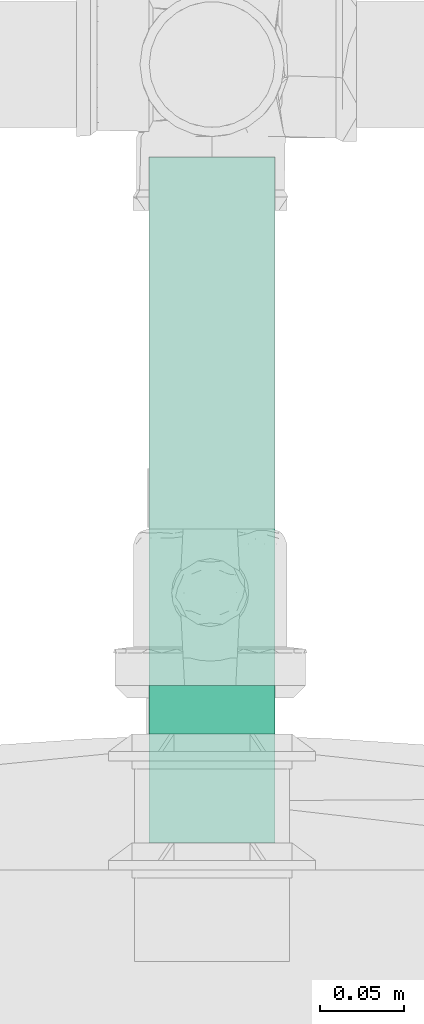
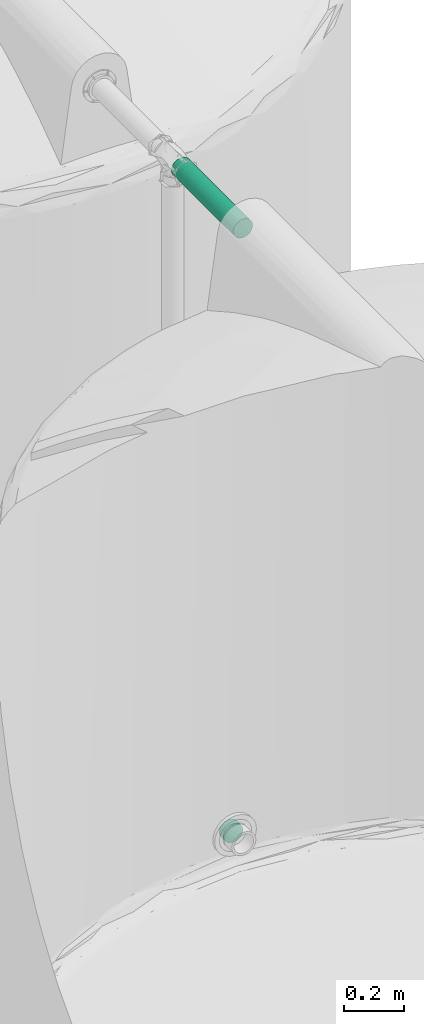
# One storey, part 57 of 166: 2 flow segments.
"""IFC2X3 building model written with IfcOpenShell, lengths in metres."""

from ifc_helpers import new_model, entity, si_unit, converted_unit, direction, frame, frame_2d, origin, origin_2d_with_axis, place, context, subcontext, project, spatial, circle, extrude, type_object, element, save


model = new_model("IFC2X3")

# Units and contexts
model_context = context("Model", 3, precision=1e-05, world=origin(), true_north=direction((6.123233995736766e-17, 1.0)))
body_context = subcontext(model_context, "Body", "Model", "MODEL_VIEW")
ifc_project = project(units=[si_unit("LENGTHUNIT", "METRE"), converted_unit("PLANEANGLEUNIT", "DEGREE", entity("IfcPlaneAngleMeasure", 0.017453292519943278), si_unit("PLANEANGLEUNIT", "RADIAN"), dimensions=[0, 0, 0, 0, 0, 0, 0]), si_unit("AREAUNIT", "SQUARE_METRE")], contexts=[model_context])

# Site, building, storey
site_placement = place(None, origin())
site = spatial("IfcSite", under=ifc_project, at=site_placement, Name="Default", CompositionType="ELEMENT")
building_placement = place(site_placement, origin())
building = spatial("IfcBuilding", under=site, at=building_placement, Name="CASA DE ACOLHIDA PARA IDOSOS", CompositionType="ELEMENT")
storey_placement = place(building_placement, frame((0.0, 0.0, -1.7499999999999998)))
storey = spatial("IfcBuildingStorey", under=building, at=storey_placement, Name="IMPLANTAÇÃO DRENAGEM", CompositionType="ELEMENT", Elevation=-1.7499999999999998)

# Flow segments
pipe_segment_type_1 = type_object("IfcPipeSegmentType", Name="Tipos de tubos:AF_Tubo Marrom Soldável", PredefinedType="NOTDEFINED")
flow_segment_1_placement = place(storey_placement, origin())
element("IfcFlowSegment", 1, at=flow_segment_1_placement, inside=storey, type_object=pipe_segment_type_1, Name="Tipos de tubos:AF_Tubo Marrom Soldável", ObjectType="Tipos de tubos:AF_Tubo Marrom Soldável", context=body_context, shape_type="SweptSolid", body=[
    extrude(circle(Radius=0.037500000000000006, at=origin_2d_with_axis()), frame((-62.75891005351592, -0.65117816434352, 0.13343317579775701), z_axis=(0.0, 1.0, 0.0), x_axis=(-1.0, 0.0, 0.0)), (0.0, 0.0, 1.0), 0.028858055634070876),
])
pipe_segment_type_2 = type_object("IfcPipeSegmentType", Name="Tipos de tubos:AF_Tubo Branco Roscável", PredefinedType="NOTDEFINED")
flow_segment_2_placement = place(storey_placement, origin())
element("IfcFlowSegment", 2, at=flow_segment_2_placement, inside=storey, type_object=pipe_segment_type_2, Name="Tipos de tubos:AF_Tubo Branco Roscável", ObjectType="Tipos de tubos:AF_Tubo Branco Roscável", context=body_context, shape_type="SweptSolid", body=[
    extrude(circle(Radius=0.037500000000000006, at=frame_2d((0.0, -1.353583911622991e-16), x_axis=(1.0, 0.0))), frame((-62.75891005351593, -0.71617816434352, 2.615000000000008), z_axis=(0.0, 1.0, 0.0), x_axis=(-1.0, 0.0, 0.0)), (0.0, 0.0, 1.0), 0.409499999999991),
])

save(model, "model.ifc")
